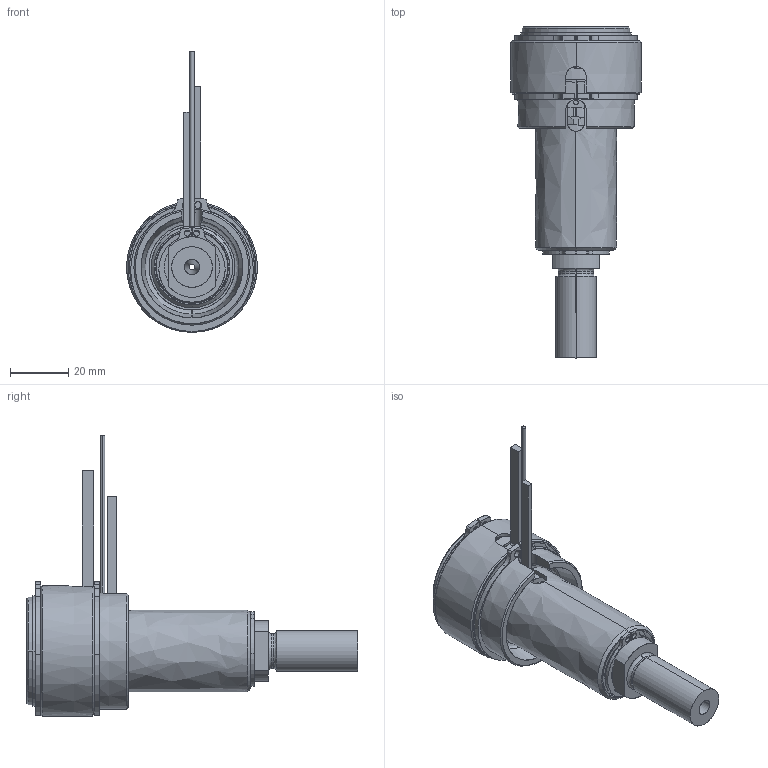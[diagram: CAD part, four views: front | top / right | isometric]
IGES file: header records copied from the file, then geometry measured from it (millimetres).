
Start section: SolidWorks IGES file using analytic representation for surfaces
Global section: file name: C:\Documents and Settings\ws-20\Desktop\TEM\UGBE4501-M-A-P-3 [Ød-2.0 P-25 ØC-10].IGS; native system: SolidWorks 2012; preprocessor: SolidWorks 2012; author: ws-20; date: 120412.154207; units: millimetre
Bounding box: 45 x 114.25 x 96.65 mm (x, y, z)
Surface area: 38934.2 mm2 (no closed solid volume)
Topology: 0 solids, 0 shells, 163 faces, 3077 edges, 3077 vertices
Faces by surface type: revolution 98, bspline 65
